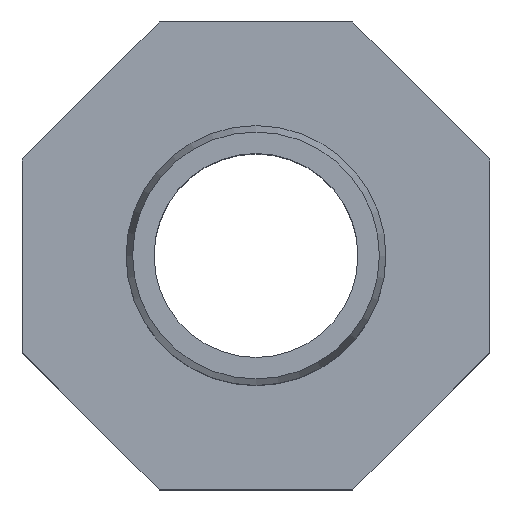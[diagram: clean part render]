
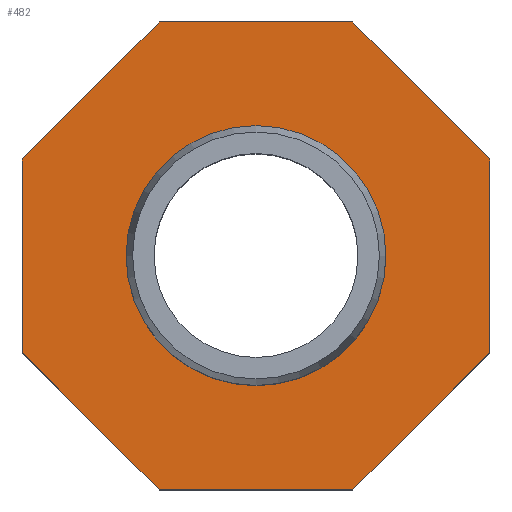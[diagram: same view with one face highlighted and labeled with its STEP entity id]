
A CAD part, top view. The second image highlights one B-rep face of the part: STEP entity #482.
In plain terms, the highlighted planar face has unit normal (0, 0, 1).
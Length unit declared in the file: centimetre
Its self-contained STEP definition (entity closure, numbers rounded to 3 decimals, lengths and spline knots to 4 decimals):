
#20=LINE('',#4360,#48);
#24=LINE('',#4368,#52);
#27=LINE('',#4374,#55);
#30=LINE('',#4380,#58);
#33=LINE('',#4386,#61);
#36=LINE('',#4392,#64);
#39=LINE('',#4398,#67);
#42=LINE('',#4403,#70);
#48=VECTOR('',#582,1.4912);
#52=VECTOR('',#588,1.4912);
#55=VECTOR('',#593,1.4912);
#58=VECTOR('',#598,1.4912);
#61=VECTOR('',#603,1.4912);
#64=VECTOR('',#608,1.4912);
#67=VECTOR('',#613,1.4912);
#70=VECTOR('',#618,1.4912);
#101=PLANE('',#521);
#111=FACE_BOUND('',#178,.T.);
#141=FACE_OUTER_BOUND('',#177,.T.);
#177=EDGE_LOOP('',(#398,#399,#400,#401,#402,#403,#404,#405));
#178=EDGE_LOOP('',(#406));
#203=CIRCLE('',#509,1.);
#228=VERTEX_POINT('',#4352);
#230=VERTEX_POINT('',#4358);
#231=VERTEX_POINT('',#4359);
#234=VERTEX_POINT('',#4367);
#236=VERTEX_POINT('',#4373);
#238=VERTEX_POINT('',#4379);
#240=VERTEX_POINT('',#4385);
#242=VERTEX_POINT('',#4391);
#244=VERTEX_POINT('',#4397);
#277=EDGE_CURVE('',#228,#228,#203,.T.);
#279=EDGE_CURVE('',#230,#231,#20,.T.);
#283=EDGE_CURVE('',#234,#230,#24,.T.);
#286=EDGE_CURVE('',#236,#234,#27,.T.);
#289=EDGE_CURVE('',#238,#236,#30,.T.);
#292=EDGE_CURVE('',#240,#238,#33,.T.);
#295=EDGE_CURVE('',#242,#240,#36,.T.);
#298=EDGE_CURVE('',#244,#242,#39,.T.);
#301=EDGE_CURVE('',#231,#244,#42,.T.);
#398=ORIENTED_EDGE('',*,*,#301,.F.);
#399=ORIENTED_EDGE('',*,*,#279,.F.);
#400=ORIENTED_EDGE('',*,*,#283,.F.);
#401=ORIENTED_EDGE('',*,*,#286,.F.);
#402=ORIENTED_EDGE('',*,*,#289,.F.);
#403=ORIENTED_EDGE('',*,*,#292,.F.);
#404=ORIENTED_EDGE('',*,*,#295,.F.);
#405=ORIENTED_EDGE('',*,*,#298,.F.);
#406=ORIENTED_EDGE('',*,*,#277,.F.);
#482=ADVANCED_FACE('',(#141,#111),#101,.T.);
#509=AXIS2_PLACEMENT_3D('',#4353,#574,#575);
#521=AXIS2_PLACEMENT_3D('',#4406,#622,#623);
#574=DIRECTION('center_axis',(0.,0.,1.));
#575=DIRECTION('ref_axis',(1.,0.,0.));
#582=DIRECTION('',(1.,0.,0.));
#588=DIRECTION('',(0.707,0.707,0.));
#593=DIRECTION('',(0.,1.,0.));
#598=DIRECTION('',(-0.707,0.707,0.));
#603=DIRECTION('',(-1.,0.,0.));
#608=DIRECTION('',(-0.707,-0.707,0.));
#613=DIRECTION('',(0.,-1.,0.));
#618=DIRECTION('',(0.707,-0.707,0.));
#622=DIRECTION('center_axis',(0.,0.,1.));
#623=DIRECTION('ref_axis',(1.,0.,0.));
#4352=CARTESIAN_POINT('',(0.598,-0.003,0.6233));
#4353=CARTESIAN_POINT('Origin',(-0.402,-0.003,
0.6233));
#4358=CARTESIAN_POINT('',(-1.1476,1.797,0.6233));
#4359=CARTESIAN_POINT('',(0.3436,1.797,0.6233));
#4360=CARTESIAN_POINT('',(-1.1476,1.797,0.6233));
#4367=CARTESIAN_POINT('',(-2.202,0.7426,0.6233));
#4368=CARTESIAN_POINT('',(-2.202,0.7426,0.6233));
#4373=CARTESIAN_POINT('',(-2.202,-0.7486,0.6233));
#4374=CARTESIAN_POINT('',(-2.202,-0.7486,0.6233));
#4379=CARTESIAN_POINT('',(-1.1476,-1.803,0.6233));
#4380=CARTESIAN_POINT('',(-1.1476,-1.803,0.6233));
#4385=CARTESIAN_POINT('',(0.3436,-1.803,0.6233));
#4386=CARTESIAN_POINT('',(0.3436,-1.803,0.6233));
#4391=CARTESIAN_POINT('',(1.398,-0.7486,0.6233));
#4392=CARTESIAN_POINT('',(1.398,-0.7486,0.6233));
#4397=CARTESIAN_POINT('',(1.398,0.7426,0.6233));
#4398=CARTESIAN_POINT('',(1.398,0.7426,0.6233));
#4403=CARTESIAN_POINT('',(0.3436,1.797,0.6233));
#4406=CARTESIAN_POINT('Origin',(0.598,-0.003,
0.6233));
